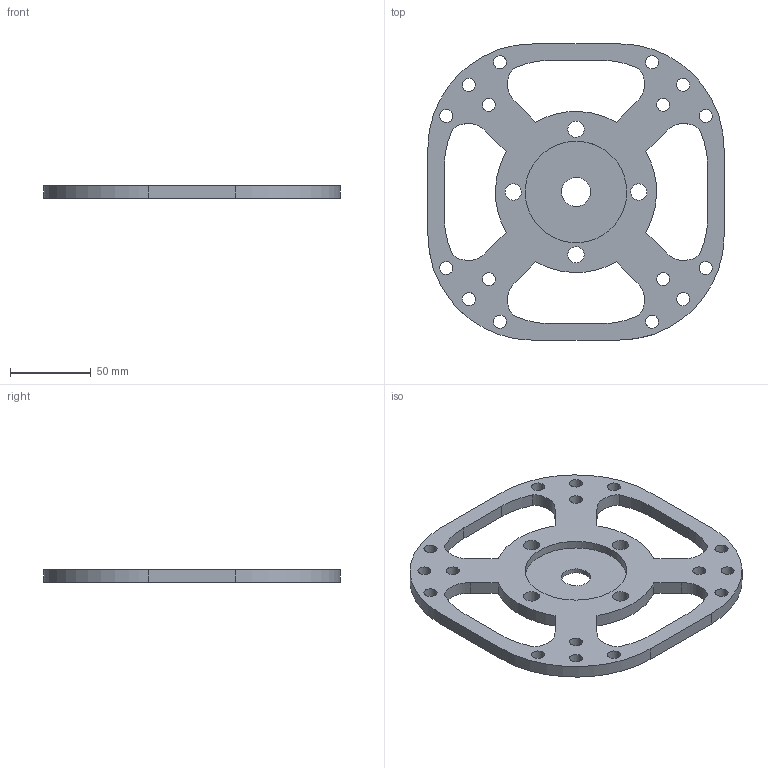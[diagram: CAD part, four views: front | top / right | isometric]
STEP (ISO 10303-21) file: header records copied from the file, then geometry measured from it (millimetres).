
FILE_DESCRIPTION ((), '1');
FILE_NAME ('C:\Users\tprototype\Desktop\TeslaGen Project\TeslaGen-v1\CNC Parts\Endplate\CAD File\Endplates55-1mm.stp', '2016-05-20T17:09:07', ('Unknown'), ('Unknown'), 'HarmonyWare STEP v1.7.11', 'HarmonyWare Translators', '');
FILE_SCHEMA (('CONFIG_CONTROL_DESIGN'));
Length unit declared in the file: millimetre
Products named in the file (1): product-name
Bounding box: 183.71 x 183.71 x 8 mm (x, y, z)
Volume: 132923.2 mm3; surface area: 54037.5 mm2
Topology: 1 solids, 1 shells, 65 faces, 186 edges, 124 vertices
Faces by surface type: bspline 65
Entity records: 2901 total; most frequent: CARTESIAN_POINT 1660, ORIENTED_EDGE 372, EDGE_CURVE 186, B_SPLINE_CURVE_WITH_KNOTS 126, VERTEX_POINT 124, EDGE_LOOP 116, FACE_OUTER_BOUND 65, ADVANCED_FACE 65
